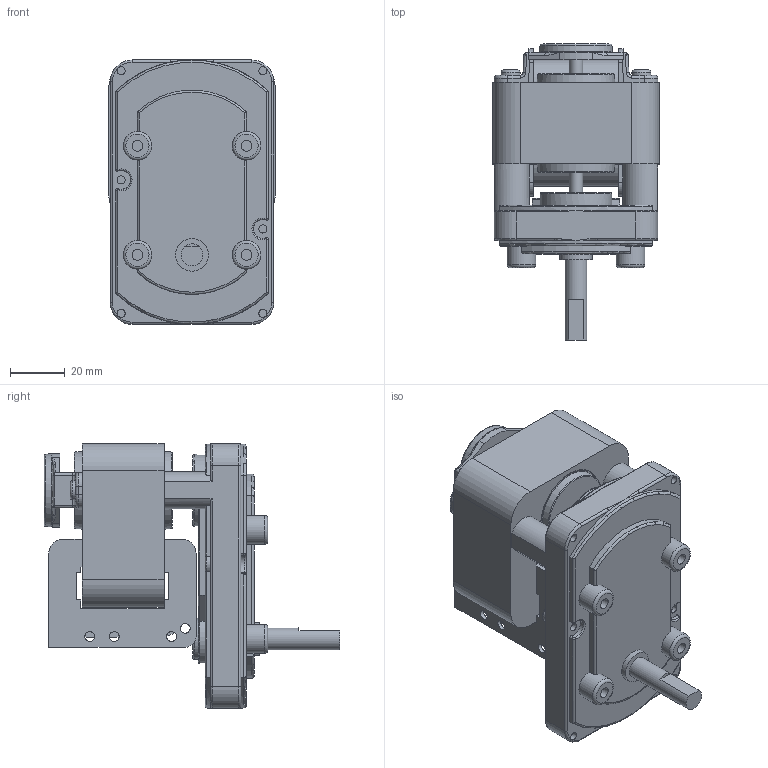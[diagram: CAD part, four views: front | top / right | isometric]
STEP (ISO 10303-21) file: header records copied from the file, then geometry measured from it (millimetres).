
FILE_DESCRIPTION((''),'2;1');
FILE_NAME('E:\2공장-도면\3D\표준형 3D(민규)\1공장 step\KGB series.stp','2015-02-26T18:51:29',('AHN'),(''),'Autodesk Inventor 2012','Autodesk Inventor 2012','');
FILE_SCHEMA(('CONFIG_CONTROL_DESIGN'));
Length unit declared in the file: millimetre
Products named in the file (3): KGB; KGB기어박스; KAㅁ-61ㅁㅁ GENERAL TYPE SERIES
Assembly tree (2 placements, depth 2):
  KGB
    KGB기어박스
    KAㅁ-61ㅁㅁ GENERAL TYPE SERIES
Bounding box: 61 x 108.5 x 97.1 mm (x, y, z)
Volume: 243204.2 mm3; surface area: 56912.8 mm2
Topology: 5 solids, 7 shells, 347 faces, 838 edges, 505 vertices
Faces by surface type: plane 143, cylinder 137, torus 41, bspline 20, cone 6
Full cylindrical faces by diameter (mm): 3 x8, 3.3 x2, 3.6 x8, 4 x4, 5 x5, 6 x2, 7 x2, 8 x1, 10.5 x4, 12 x1, 15 x1, 26.3 x1, 29.4 x1, 30 x1
Entity records: 11337 total; most frequent: CARTESIAN_POINT 3362, DIRECTION 1689, ORIENTED_EDGE 1498, EDGE_CURVE 749, AXIS2_PLACEMENT_3D 666, VERTEX_POINT 487, EDGE_LOOP 448, VECTOR 357
